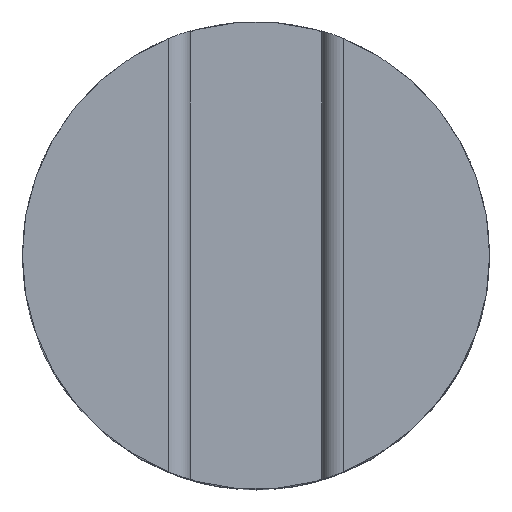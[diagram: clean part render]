
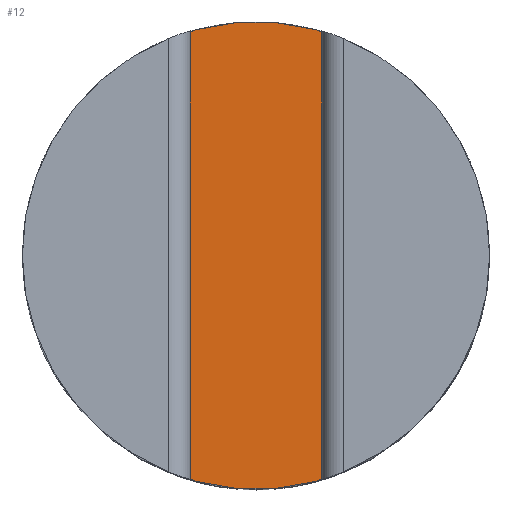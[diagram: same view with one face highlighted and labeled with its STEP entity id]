
A CAD part, top view. The second image highlights one B-rep face of the part: STEP entity #12.
In plain terms, the highlighted planar face has unit normal (0, 0, 1).
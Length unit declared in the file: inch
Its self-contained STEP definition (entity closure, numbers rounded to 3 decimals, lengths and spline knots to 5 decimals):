
#12 = ADVANCED_FACE ( 'NONE', ( #661 ), #772, .F. ) ;
#15 = VECTOR ( 'NONE', #980, 39.37008 ) ;
#26 = ORIENTED_EDGE ( 'NONE', *, *, #978, .F. ) ;
#70 = CARTESIAN_POINT ( 'NONE',  ( 0.15639, 1.76007, -0.3753 ) ) ;
#157 = ORIENTED_EDGE ( 'NONE', *, *, #367, .F. ) ;
#174 = CARTESIAN_POINT ( 'NONE',  ( 0., 0., -0.3753 ) ) ;
#175 = CARTESIAN_POINT ( 'NONE',  ( -0.15639, -0.34083, -0.3753 ) ) ;
#279 = CARTESIAN_POINT ( 'NONE',  ( 1.3485, 1.76007, -0.3753 ) ) ;
#316 = VECTOR ( 'NONE', #926, 39.37008 ) ;
#318 = ORIENTED_EDGE ( 'NONE', *, *, #781, .F. ) ;
#319 = DIRECTION ( 'NONE',  ( 1., 0., 0. ) ) ;
#367 = EDGE_CURVE ( 'NONE', #1063, #663, #440, .T. ) ;
#424 = AXIS2_PLACEMENT_3D ( 'NONE', #279, #985, #768 ) ;
#436 = DIRECTION ( 'NONE',  ( 1., 0., 0. ) ) ;
#440 = LINE ( 'NONE', #510, #316 ) ;
#447 = EDGE_LOOP ( 'NONE', ( #318, #627, #26, #157 ) ) ;
#476 = DIRECTION ( 'NONE',  ( 0., 0., -1. ) ) ;
#481 = VERTEX_POINT ( 'NONE', #535 ) ;
#510 = CARTESIAN_POINT ( 'NONE',  ( -0.15639, 1.76007, -0.3753 ) ) ;
#535 = CARTESIAN_POINT ( 'NONE',  ( 0.15639, -0.34083, -0.3753 ) ) ;
#586 = CARTESIAN_POINT ( 'NONE',  ( 0.15639, 0.34083, -0.3753 ) ) ;
#593 = DIRECTION ( 'NONE',  ( 0., 0., -1. ) ) ;
#627 = ORIENTED_EDGE ( 'NONE', *, *, #987, .F. ) ;
#661 = FACE_OUTER_BOUND ( 'NONE', #447, .T. ) ;
#663 = VERTEX_POINT ( 'NONE', #981 ) ;
#672 = AXIS2_PLACEMENT_3D ( 'NONE', #174, #593, #436 ) ;
#727 = LINE ( 'NONE', #70, #15 ) ;
#768 = DIRECTION ( 'NONE',  ( -1., 0., 0. ) ) ;
#772 = PLANE ( 'NONE',  #424 ) ;
#781 = EDGE_CURVE ( 'NONE', #481, #1063, #831, .T. ) ;
#792 = VERTEX_POINT ( 'NONE', #586 ) ;
#831 = CIRCLE ( 'NONE', #672, 0.375 ) ;
#880 = CARTESIAN_POINT ( 'NONE',  ( 0., 0., -0.3753 ) ) ;
#926 = DIRECTION ( 'NONE',  ( 0., 1., 0. ) ) ;
#931 = CIRCLE ( 'NONE', #1042, 0.375 ) ;
#978 = EDGE_CURVE ( 'NONE', #663, #792, #931, .T. ) ;
#980 = DIRECTION ( 'NONE',  ( 0., -1., 0. ) ) ;
#981 = CARTESIAN_POINT ( 'NONE',  ( -0.15639, 0.34083, -0.3753 ) ) ;
#985 = DIRECTION ( 'NONE',  ( 0., 0., -1. ) ) ;
#987 = EDGE_CURVE ( 'NONE', #792, #481, #727, .T. ) ;
#1042 = AXIS2_PLACEMENT_3D ( 'NONE', #880, #476, #319 ) ;
#1063 = VERTEX_POINT ( 'NONE', #175 ) ;
